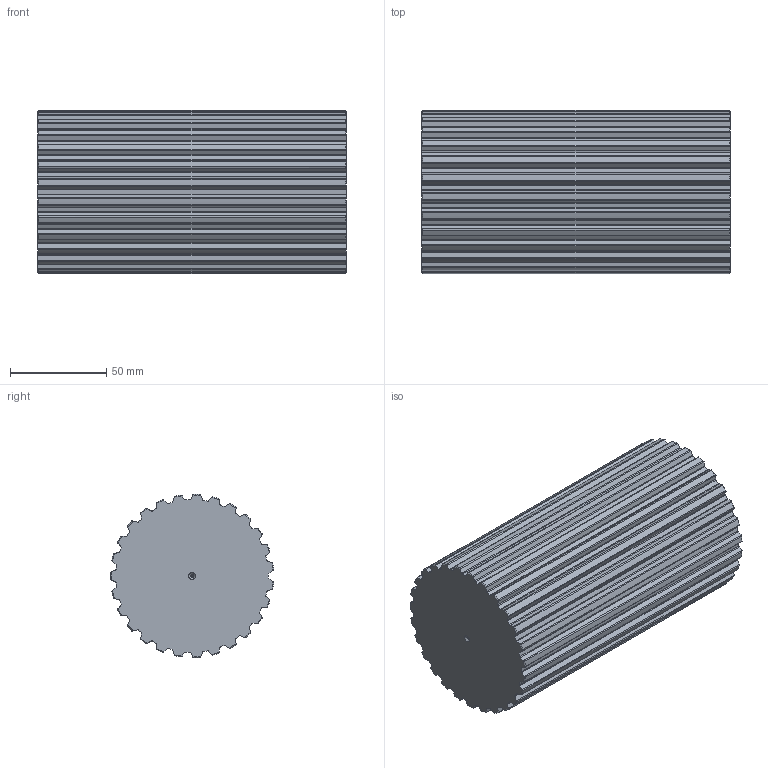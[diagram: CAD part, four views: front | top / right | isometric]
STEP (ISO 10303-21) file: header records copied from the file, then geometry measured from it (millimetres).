
FILE_DESCRIPTION(('STEP AP203'),'1');
FILE_NAME('barat_27.stp','2022-04-12T08:51:54',('TraceParts'),('TraceParts S.A.'),'Spatial InterOp 3D',' ',' ');
FILE_SCHEMA(('CONFIG_CONTROL_DESIGN'));
Length unit declared in the file: millimetre
Products named in the file (1): 1
Bounding box: 160 x 84.8 x 84.92 mm (x, y, z)
Volume: 852007.1 mm3; surface area: 65216.6 mm2
Topology: 1 solids, 1 shells, 286 faces, 844 edges, 558 vertices
Faces by surface type: cylinder 166, cone 64, plane 56
Entity records: 10058 total; most frequent: CARTESIAN_POINT 2657, ORIENTED_EDGE 1680, DIRECTION 1484, EDGE_CURVE 840, AXIS2_PLACEMENT_3D 573, VERTEX_POINT 558, LINE 338, VECTOR 338
